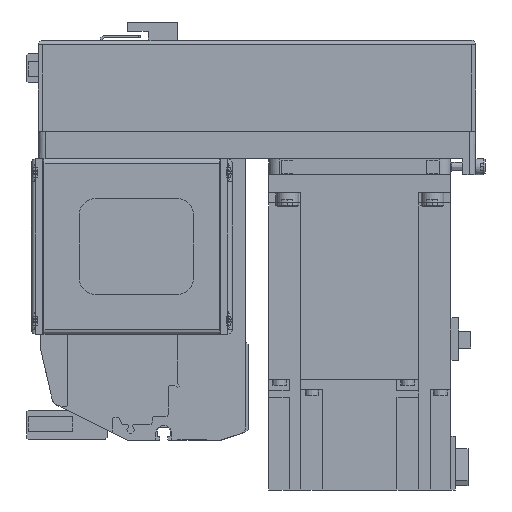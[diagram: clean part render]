
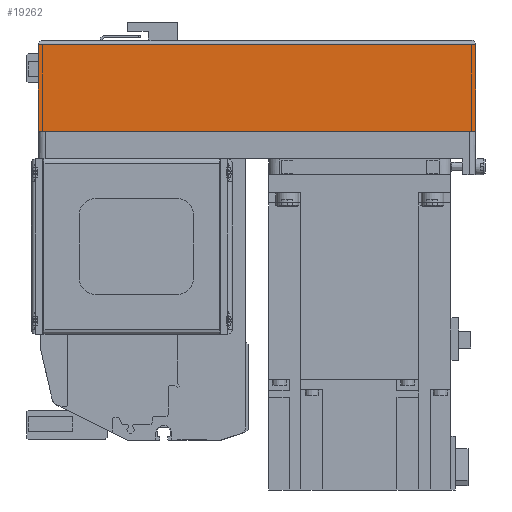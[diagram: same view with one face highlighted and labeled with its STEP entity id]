
A CAD part, left-side view. The second image highlights one B-rep face of the part: STEP entity #19262.
In plain terms, the highlighted planar face has unit normal (-1, 0, 0) as drawn and (0, -1, 0) by its records, which use the part's own axes.
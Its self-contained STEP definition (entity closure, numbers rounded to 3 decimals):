
#2988=ORIENTED_EDGE('',*,*,#7765,.F.);
#2989=ORIENTED_EDGE('',*,*,#7749,.F.);
#2990=ORIENTED_EDGE('',*,*,#7742,.T.);
#2991=ORIENTED_EDGE('',*,*,#7812,.T.);
#7742=EDGE_CURVE('',#10305,#10304,#12280,.T.);
#7749=EDGE_CURVE('',#10305,#10311,#12287,.T.);
#7765=EDGE_CURVE('',#10311,#10325,#12303,.T.);
#7812=EDGE_CURVE('',#10304,#10325,#12324,.T.);
#10304=VERTEX_POINT('',#29541);
#10305=VERTEX_POINT('',#29543);
#10311=VERTEX_POINT('',#29558);
#10325=VERTEX_POINT('',#29591);
#12280=LINE('',#29542,#13986);
#12287=LINE('',#29557,#13993);
#12303=LINE('',#29590,#14009);
#12324=LINE('',#29671,#14030);
#13986=VECTOR('',#23632,1000.);
#13993=VECTOR('',#23643,1000.);
#14009=VECTOR('',#23665,1000.);
#14030=VECTOR('',#23774,1000.);
#15554=EDGE_LOOP('',(#2988,#2989,#2990,#2991));
#17106=FACE_BOUND('',#15554,.T.);
#18489=PLANE('',#20653);
#19262=ADVANCED_FACE('',(#17106),#18489,.T.);
#20653=AXIS2_PLACEMENT_3D('',#29672,#23775,#23776);
#23632=DIRECTION('',(0.,0.,-1.));
#23643=DIRECTION('',(1.,0.,0.));
#23665=DIRECTION('',(0.,0.,-1.));
#23774=DIRECTION('',(1.,0.,0.));
#23775=DIRECTION('',(0.,-1.,0.));
#23776=DIRECTION('',(0.,0.,-1.));
#29541=CARTESIAN_POINT('',(-192.,-40.,-50.));
#29542=CARTESIAN_POINT('',(-192.,-40.,-12.1));
#29543=CARTESIAN_POINT('',(-192.,-40.,-12.1));
#29557=CARTESIAN_POINT('',(-192.,-40.,-12.1));
#29558=CARTESIAN_POINT('',(0.,-40.,-12.1));
#29590=CARTESIAN_POINT('',(0.,-40.,-12.1));
#29591=CARTESIAN_POINT('',(0.,-40.,-50.));
#29671=CARTESIAN_POINT('',(-192.,-40.,-50.));
#29672=CARTESIAN_POINT('',(-192.,-40.,-12.1));
